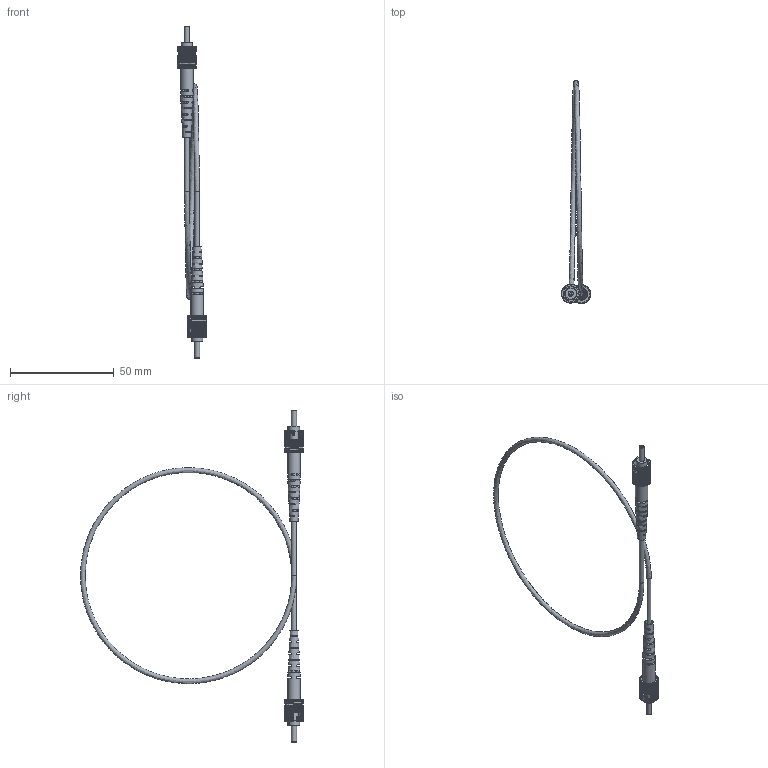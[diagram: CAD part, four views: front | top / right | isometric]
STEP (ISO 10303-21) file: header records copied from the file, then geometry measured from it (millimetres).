
FILE_DESCRIPTION (( 'STEP AP214' ), '1' );
FILE_NAME ('EXT-PF1.STEP', '2016-01-04T17:28:46', ( 'Daryl' ), ( 'Microsoft' ), 'SwSTEP 2.0', 'SolidWorks 2014', '' );
FILE_SCHEMA (( 'AUTOMOTIVE_DESIGN' ));
Length unit declared in the file: millimetre
Products named in the file (1): EXT-PF1
Bounding box: 14.02 x 107.16 x 159.69 mm (x, y, z)
Surface area: 7165 mm2 (no closed solid volume)
Topology: 0 solids, 12 shells, 993 faces, 3026 edges, 2018 vertices
Faces by surface type: plane 618, cylinder 351, bspline 22, cone 2
Full cylindrical faces by diameter (mm): 0.5 x1, 1 x2, 2.3 x2, 2.489 x2, 3.3 x2, 3.988 x2, 4.7 x2, 6 x2
Entity records: 46056 total; most frequent: CARTESIAN_POINT 8491, ORIENTED_EDGE 5784, DIRECTION 5280, EDGE_CURVE 2946, VERTEX_POINT 1980, VECTOR 1976, LINE 1976, AXIS2_PLACEMENT_3D 1652
